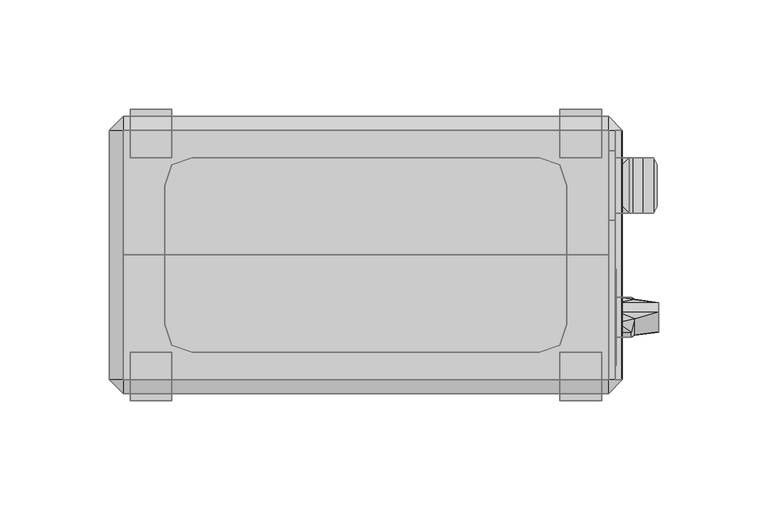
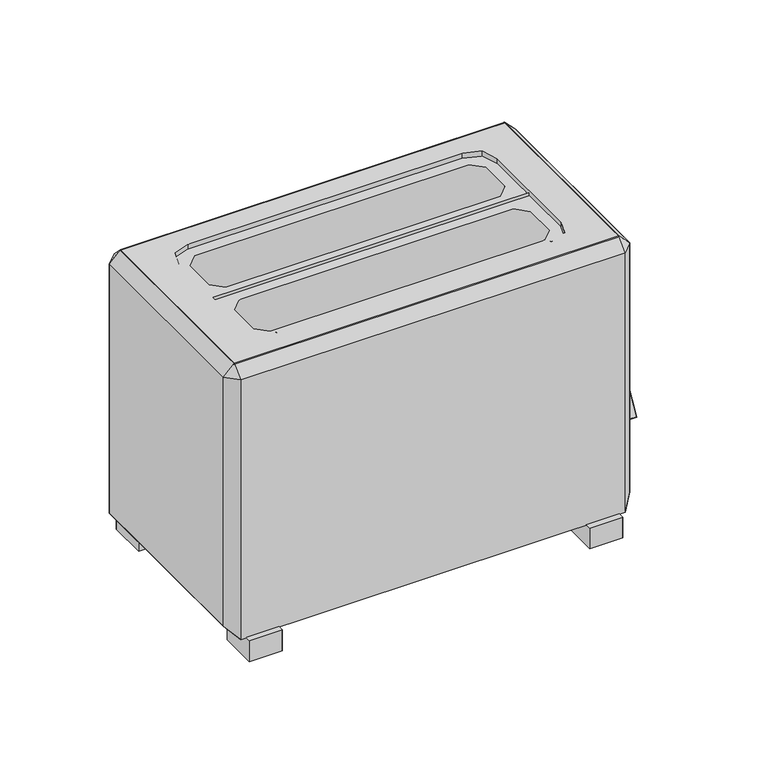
"""IFC4 building model written with IfcOpenShell, lengths in millimetres: proxy geometry, 烤麵包機 : 烤麵包機."""

from ifc_helpers import new_model, si_unit, origin, place, context, project, spatial, triangles, source, transform, mapped, element, save


def specialty_equipment_d125a757(model_context):
    return source(origin(), model_context, "Body", "Tessellation", [
        triangles([(232.552375, 31.3648075, 59.1226948), (238.902369, 31.3648075, 59.1226948), (232.552375, 35.6347526, 61.5879422), (240.4898811, 37.366526, 61.412476), (232.552375, 40.565252, 61.5879422), (251.602375, 40.565252, 61.5879422), (232.552375, 44.8351948, 59.1226948), (251.602375, 44.8351948, 59.1226948), (232.552375, 47.3004422, 49.922248), (238.902369, 47.3004422, 49.922248), (232.552375, 44.8351948, 45.6523052), (238.902369, 44.8351948, 45.6523052), (232.552375, 28.8995555, 49.922248), (232.552375, 31.3648097, 45.6523052), (240.4898811, 29.8698133, 48.4277808), (251.602375, 31.3648097, 45.6523052), (232.552375, 28.89956, 54.852752), (238.902369, 28.89956, 54.852752), (232.552375, 47.3004468, 54.852752), (240.4898811, 46.330189, 56.3472192), (232.552375, 40.565252, 43.1870532), (240.4898811, 38.7382832, 43.1976494), (232.552375, 35.6347503, 43.1870532), (251.602375, 35.6347503, 43.1870532)], [[1, 2, 3], [3, 2, 4], [5, 6, 7], [8, 7, 6], [3, 4, 5], [5, 4, 6], [9, 10, 11], [12, 11, 10], [13, 14, 15], [15, 14, 16], [17, 13, 18], [18, 13, 15], [9, 19, 10], [10, 19, 20], [21, 22, 23], [23, 22, 24], [12, 10, 20], [20, 22, 12], [23, 24, 14], [16, 14, 24], [11, 12, 21], [21, 12, 22], [6, 16, 8], [24, 8, 16], [2, 18, 4], [15, 4, 18], [4, 15, 16], [16, 6, 4], [22, 20, 24], [8, 24, 20], [17, 18, 1], [2, 1, 18], [19, 7, 20], [20, 7, 8]], closed=False),
        triangles([(225.4249939, 111.125003, 12.6999958), (225.4249939, 133.35, 12.6999936), (206.3749939, 111.125003, 12.6999958), (206.3749939, 133.35, 12.6999936), (225.4249939, 6e-07, 12.7000061), (225.4249939, 22.2249992, 12.7000049), (206.3749939, 22.2249992, 12.7000049), (206.3749939, 6e-07, 12.7000061), (9.525, 133.35, 12.6999936), (9.525, 111.125003, 12.6999958), (28.575, 133.35, 12.6999936), (28.575, 111.125003, 12.6999958), (9.525, 22.2249992, 12.7000049), (9.525, 6e-07, 12.7000061), (28.575, 6e-07, 12.7000061), (28.575, 22.2249992, 12.7000049), (28.575, 22.2249992, 3.9e-06), (28.575, -6e-07, 5.8e-06), (9.525, 22.2249992, 3.9e-06), (9.525, -6e-07, 5.8e-06), (225.4249939, 22.2249992, 3.9e-06), (225.4249939, -6e-07, 5.8e-06), (206.3749939, -6e-07, 5.8e-06), (206.3749939, 22.2249992, 3.9e-06), (225.4249939, 133.35, -5.8e-06), (206.3749939, 133.35, -5.8e-06), (28.575, 133.35, -5.8e-06), (9.525, 133.35, -5.8e-06), (206.3749939, 111.125003, -3.9e-06), (225.4249939, 111.125003, -3.9e-06), (9.525, 111.125003, -3.9e-06), (28.575, 111.125003, -3.9e-06)], [[1, 2, 3], [4, 3, 2], [5, 6, 7], [7, 8, 5], [9, 10, 11], [12, 11, 10], [13, 14, 15], [15, 16, 13], [16, 15, 17], [18, 17, 15], [19, 20, 13], [14, 13, 20], [6, 5, 21], [22, 21, 5], [8, 7, 23], [24, 23, 7], [15, 14, 18], [20, 18, 14], [5, 8, 22], [23, 22, 8], [4, 2, 25], [25, 26, 4], [9, 11, 27], [27, 28, 9], [3, 4, 26], [26, 29, 3], [2, 1, 30], [30, 25, 2], [28, 31, 10], [10, 9, 28], [11, 12, 32], [32, 27, 11], [12, 10, 32], [31, 32, 10], [1, 3, 30], [29, 30, 3], [7, 6, 21], [21, 24, 7], [13, 16, 17], [17, 19, 13]], closed=False),
        triangles([(234.9499939, 88.899997, 158.7499939), (231.7750061, 88.899997, 158.7499939), (238.125, 85.725, 157.1625), (231.7750061, 85.725, 157.1625), (231.7750061, 107.949997, 158.7499939), (234.9499939, 107.949997, 158.7499939), (238.125, 111.125003, 157.1625), (231.7750061, 111.125003, 157.1625), (238.125, 111.125003, 150.812497), (238.125, 85.725, 150.812497), (239.7124939, 85.725, 146.049997), (239.7124939, 111.125003, 146.049997), (244.4749939, 111.125003, 144.462503), (244.4749939, 85.725, 144.462503), (249.2374939, 85.725, 144.462503), (249.2374939, 111.125003, 144.462503), (250.8250061, 107.949997, 142.875), (250.8250061, 88.899997, 142.875), (244.4749939, 85.725, 139.700003), (249.2374939, 85.725, 139.700003), (244.4749939, 111.125003, 139.700003), (249.2374939, 111.125003, 139.700003), (250.8250061, 88.899997, 139.700003), (250.8250061, 107.949997, 139.700003), (231.7750061, 85.725, 150.812497), (231.7750061, 85.725, 139.700003), (231.7750061, 111.125003, 150.812497), (231.7750061, 111.125003, 139.700003)], [[1, 2, 3], [4, 3, 2], [5, 2, 6], [1, 6, 2], [6, 1, 3], [3, 7, 6], [5, 6, 7], [7, 8, 5], [9, 10, 11], [11, 12, 9], [13, 14, 15], [15, 16, 13], [16, 15, 17], [18, 17, 15], [14, 19, 15], [20, 15, 19], [21, 13, 16], [16, 22, 21], [15, 20, 23], [23, 18, 15], [17, 18, 23], [23, 24, 17], [22, 16, 24], [17, 24, 16], [10, 25, 11], [26, 11, 25], [27, 9, 12], [12, 28, 27], [11, 26, 19], [19, 14, 11], [28, 12, 21], [13, 21, 12], [12, 11, 13], [14, 13, 11], [3, 4, 25], [25, 10, 3], [8, 7, 27], [9, 27, 7], [7, 3, 9], [10, 9, 3]], closed=False),
        triangles([(6.3500002, 9.5250068, 177.7999939), (6.3500002, 9.5249932, 25.4000053), (228.6, 9.5249932, 25.4000053), (228.6, 9.5250068, 177.7999939), (6.3500002, 123.8250091, 177.7999939), (6.3500002, 123.8249909, 25.3999962), (228.6, 123.8250091, 177.7999939), (228.6, 123.8249909, 25.3999962), (6.3500002, 66.6749955, 23.8125), (6.3500002, 66.6750045, 176.2125), (228.6, 66.6749955, 23.8125), (228.6, 66.6750045, 176.2125)], [[1, 2, 3], [3, 4, 1], [5, 6, 1], [2, 1, 6], [4, 3, 7], [8, 7, 3], [7, 8, 6], [6, 5, 7], [9, 10, 11], [12, 11, 10]], closed=False),
        triangles([(209.55, 98.4250061, 177.7999939), (228.6, 123.8250091, 177.7999939), (206.3749939, 107.9500151, 177.7999939), (196.8499939, 111.1250121, 177.7999939), (228.6, 9.5250079, 177.7999939), (209.55, 34.925003, 177.7999939), (206.3749939, 25.400003, 177.7999939), (196.8499939, 22.2250038, 177.7999939), (196.8499939, 104.7750091, 174.6250061), (206.3749939, 107.9500151, 174.6250061), (196.8499939, 111.1250121, 174.6250061), (203.2000061, 98.4250061, 174.6250061), (209.55, 98.4250061, 174.6250061), (203.2000061, 79.3750061, 174.6250061), (209.55, 73.0250076, 174.6250061), (196.8499939, 73.0250076, 174.6250061), (209.55, 66.6750045, 174.6250061), (203.2000061, 53.9750076, 174.6250061), (209.55, 60.3250061, 174.6250061), (196.8499939, 60.3250061, 174.6250061), (203.2000061, 34.925003, 174.6250061), (209.55, 34.925003, 174.6250061), (196.8499939, 28.5750023, 174.6250061), (196.8499939, 22.2250038, 174.6250061), (206.3749939, 25.400003, 174.6250061), (231.7750061, 123.8250091, 171.45), (234.9499939, 123.8250091, 171.45), (234.9499939, 9.5250068, 171.45), (231.7750061, 9.5250068, 171.45), (228.6, 130.1750121, 171.45), (228.6, 3.1750069, 171.45), (6.3500002, 123.8250091, 177.7999939), (25.4000008, 98.4250061, 177.7999939), (28.575, 107.9500151, 177.7999939), (38.1, 111.1250121, 177.7999939), (6.3500002, 9.5250079, 177.7999939), (25.4000008, 34.925003, 177.7999939), (28.575, 25.400003, 177.7999939), (38.1, 22.2250038, 177.7999939), (25.4000008, 34.925003, 174.6250061), (31.7499992, 34.925003, 174.6250061), (31.7499992, 53.9750076, 174.6250061), (25.4000008, 60.3250061, 174.6250061), (38.1, 60.3250061, 174.6250061), (25.4000008, 66.6750045, 174.6250061), (31.7499992, 79.3750061, 174.6250061), (25.4000008, 73.0250076, 174.6250061), (38.1, 73.0250076, 174.6250061), (31.7499992, 98.4250061, 174.6250061), (25.4000008, 98.4250061, 174.6250061), (38.1, 104.7750091, 174.6250061), (28.575, 107.9500151, 174.6250061), (38.1, 111.1250121, 174.6250061), (38.1, 28.5750023, 174.6250061), (28.575, 25.400003, 174.6250061), (38.1, 22.2250038, 174.6250061), (6.3500002, 130.1750121, 171.45), (0.0, 123.8250091, 171.45), (0.0, 9.5250068, 171.45), (6.3500002, 3.1750069, 171.45), (228.6, 114.3000091, 165.1000061), (231.7750061, 114.3000091, 165.1000061), (228.6, 82.550003, 165.1000061), (231.7750061, 82.550003, 165.1000061), (228.6, 82.550003, 88.899997), (231.7750061, 82.550003, 88.899997), (228.6, 114.3, 88.899997), (231.7750061, 114.3, 88.899997), (231.7750061, 9.5249932, 19.0500045), (234.9499939, 9.5249932, 19.0500045), (234.9499939, 123.8249909, 19.0499955), (231.7750061, 123.8249909, 19.0499955), (6.3500002, 123.8249909, 25.3999962), (6.3500002, 9.5249938, 25.4000053), (228.6, 123.8249909, 25.3999962), (228.6, 9.5249938, 25.4000053), (228.6, 3.1749927, 12.7000061), (228.6, 130.1749849, 12.6999947), (0.0, 9.5249932, 19.0500045), (0.0, 123.8249909, 19.0499955), (6.3500002, 130.1749849, 12.6999947), (6.3500002, 3.1749927, 12.7000061)], [[1, 2, 3], [4, 3, 2], [5, 6, 7], [7, 8, 5], [2, 1, 5], [6, 5, 1], [9, 10, 11], [9, 12, 13], [13, 10, 9], [13, 12, 14], [14, 15, 13], [15, 14, 16], [16, 17, 15], [18, 19, 20], [17, 20, 19], [21, 22, 18], [19, 18, 22], [23, 24, 25], [21, 23, 22], [25, 22, 23], [1, 13, 6], [22, 6, 13], [3, 10, 13], [13, 1, 3], [4, 11, 3], [10, 3, 11], [7, 25, 8], [24, 8, 25], [6, 22, 25], [25, 7, 6], [26, 27, 28], [28, 29, 26], [27, 30, 2], [31, 28, 5], [5, 28, 27], [27, 2, 5], [32, 33, 34], [34, 35, 32], [36, 37, 33], [33, 32, 36], [37, 36, 38], [39, 38, 36], [40, 41, 42], [42, 43, 40], [43, 42, 44], [44, 45, 43], [46, 47, 48], [45, 48, 47], [49, 50, 46], [47, 46, 50], [49, 51, 50], [52, 50, 51], [52, 51, 53], [54, 55, 56], [54, 41, 40], [40, 55, 54], [34, 52, 35], [53, 35, 52], [33, 50, 52], [52, 34, 33], [37, 40, 33], [50, 33, 40], [55, 38, 39], [39, 56, 55], [40, 37, 55], [38, 55, 37], [57, 58, 32], [59, 60, 36], [32, 58, 36], [59, 36, 58], [5, 8, 36], [39, 36, 8], [32, 35, 2], [4, 2, 35], [53, 51, 9], [9, 11, 53], [54, 56, 23], [24, 23, 56], [8, 24, 56], [56, 39, 8], [35, 53, 11], [11, 4, 35], [32, 2, 30], [30, 57, 32], [5, 36, 31], [60, 31, 36], [16, 48, 17], [45, 17, 48], [17, 45, 44], [44, 20, 17], [61, 62, 63], [64, 63, 62], [29, 64, 26], [62, 26, 64], [65, 66, 67], [68, 67, 66], [63, 64, 66], [66, 65, 63], [67, 68, 62], [62, 61, 67], [69, 70, 71], [71, 72, 69], [73, 74, 75], [76, 75, 74], [77, 78, 71], [71, 70, 77], [79, 80, 81], [81, 82, 79], [72, 68, 66], [66, 69, 72], [26, 62, 72], [68, 72, 62], [29, 69, 64], [66, 64, 69], [29, 28, 69], [70, 69, 28], [72, 71, 26], [27, 26, 71], [79, 82, 60], [60, 59, 79], [81, 80, 57], [58, 57, 80], [59, 58, 79], [80, 79, 58], [77, 70, 31], [28, 31, 70], [71, 78, 30], [30, 27, 71], [57, 30, 81], [78, 81, 30], [31, 60, 82], [82, 77, 31]], closed=False),
        triangles([(228.6, 82.550003, 88.9000061), (228.6, 114.3, 88.899997), (228.6, 114.3, 165.1000061), (228.6, 82.550003, 165.1000061), (232.1598845, 15.8749939, 76.2000091), (232.1598845, 15.8749905, 41.2750106), (232.1598845, 60.3249924, 76.2000091), (232.1598845, 60.3249879, 41.2750061)], [[1, 2, 3], [3, 4, 1], [5, 6, 7], [8, 7, 6]], closed=False),
    ])


if __name__ == "__main__":
    model = new_model("IFC4")
    model_context = context("Model", 3, world=origin())
    ifc_project = project(units=[si_unit("LENGTHUNIT", "METRE", prefix="MILLI")], contexts=[model_context])
    site = spatial("IfcSite", under=ifc_project)
    building = spatial("IfcBuilding", under=site)
    placement = place(None, origin())
    specialty_equipment_shape = specialty_equipment_d125a757(model_context)
    element("IfcBuildingElementProxy", 1, Name="烤麵包機 : 烤麵包機", ObjectType="烤麵包機 : 烤麵包機", at=placement, inside=building, context=model_context, shape_type="MappedRepresentation", body=[
        mapped(specialty_equipment_shape, transform((0.0, 0.0, 0.0), x_axis=(1.0, 0.0, 0.0), y_axis=(0.0, 1.0, 0.0), z_axis=(0.0, 0.0, 1.0))),
    ])
    save(model, "model.ifc")
